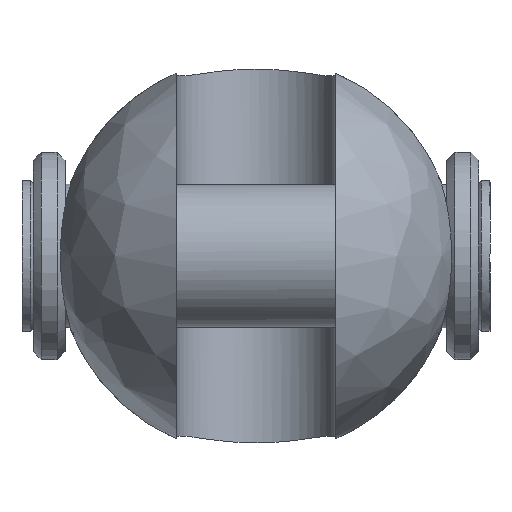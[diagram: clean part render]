
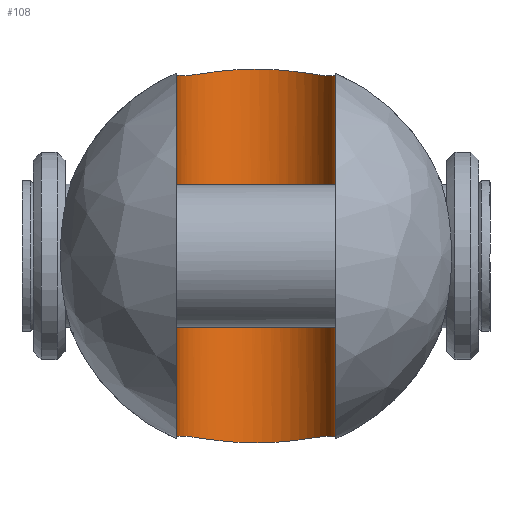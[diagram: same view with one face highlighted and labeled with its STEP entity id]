
A CAD part, left-side view. The second image highlights one B-rep face of the part: STEP entity #108.
In plain terms, the highlighted cylindrical face has radius 5 mm (diameter 10 mm), a partial arc.
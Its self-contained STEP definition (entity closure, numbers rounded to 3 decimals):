
#108=ADVANCED_FACE('',(#196),#1495,.F.);
#196=FACE_OUTER_BOUND('',#294,.T.);
#294=EDGE_LOOP('',(#691,#692,#693,#694,#695,#696,#697,#698));
#691=ORIENTED_EDGE('',*,*,#982,.F.);
#692=ORIENTED_EDGE('',*,*,#983,.F.);
#693=ORIENTED_EDGE('',*,*,#984,.F.);
#694=ORIENTED_EDGE('',*,*,#985,.F.);
#695=ORIENTED_EDGE('',*,*,#986,.F.);
#696=ORIENTED_EDGE('',*,*,#987,.F.);
#697=ORIENTED_EDGE('',*,*,#1002,.T.);
#698=ORIENTED_EDGE('',*,*,#981,.F.);
#981=EDGE_CURVE('',#1401,#1413,#1101,.T.);
#982=EDGE_CURVE('',#1400,#1401,#1102,.T.);
#983=EDGE_CURVE('',#1416,#1400,#1103,.T.);
#984=EDGE_CURVE('',#1417,#1416,#1104,.T.);
#985=EDGE_CURVE('',#1404,#1417,#1105,.T.);
#986=EDGE_CURVE('',#1403,#1404,#1106,.T.);
#987=EDGE_CURVE('',#1412,#1403,#1107,.T.);
#1002=EDGE_CURVE('',#1412,#1413,#1115,.T.);
#1101=B_SPLINE_CURVE_WITH_KNOTS('',3,(#3404,#3405,#3406,#3407),
 .UNSPECIFIED.,.F.,.F.,(4,4),(-0.987,0.),.UNSPECIFIED.);
#1102=B_SPLINE_CURVE_WITH_KNOTS('',3,(#3408,#3409,#3410,#3411,#3412,#3413,
#3414,#3415,#3416,#3417,#3418,#3419,#3420,#3421,#3422,#3423,#3424,#3425),
 .UNSPECIFIED.,.F.,.F.,(4,2,2,2,2,2,2,2,4),(-13.858,-12.651,
-10.757,-8.843,-6.929,-5.015,
-3.101,-1.206,0.),.UNSPECIFIED.);
#1103=B_SPLINE_CURVE_WITH_KNOTS('',3,(#3426,#3427,#3428,#3429),
 .UNSPECIFIED.,.F.,.F.,(4,4),(-0.987,0.),.UNSPECIFIED.);
#1104=B_SPLINE_CURVE_WITH_KNOTS('',1,(#3430,#3431),.UNSPECIFIED.,.F.,.F.,
(2,2),(-22.827,0.),.UNSPECIFIED.);
#1105=B_SPLINE_CURVE_WITH_KNOTS('',3,(#3432,#3433,#3434,#3435),
 .UNSPECIFIED.,.F.,.F.,(4,4),(-0.987,0.),.UNSPECIFIED.);
#1106=B_SPLINE_CURVE_WITH_KNOTS('',3,(#3436,#3437,#3438,#3439,#3440,#3441,
#3442,#3443,#3444,#3445,#3446,#3447,#3448,#3449,#3450,#3451,#3452,#3453),
 .UNSPECIFIED.,.F.,.F.,(4,2,2,2,2,2,2,2,4),(-13.858,-12.651,
-10.757,-8.843,-6.929,-5.015,
-3.101,-1.206,0.),.UNSPECIFIED.);
#1107=B_SPLINE_CURVE_WITH_KNOTS('',3,(#3454,#3455,#3456,#3457),
 .UNSPECIFIED.,.F.,.F.,(4,4),(-0.987,0.),.UNSPECIFIED.);
#1115=B_SPLINE_CURVE_WITH_KNOTS('',1,(#3505,#3506),.UNSPECIFIED.,.F.,.F.,
(2,2),(-22.827,0.),.UNSPECIFIED.);
#1400=VERTEX_POINT('',#3277);
#1401=VERTEX_POINT('',#3278);
#1403=VERTEX_POINT('',#3280);
#1404=VERTEX_POINT('',#3281);
#1412=VERTEX_POINT('',#3289);
#1413=VERTEX_POINT('',#3290);
#1416=VERTEX_POINT('',#3293);
#1417=VERTEX_POINT('',#3294);
#1495=CYLINDRICAL_SURFACE('',#1665,5.);
#1665=AXIS2_PLACEMENT_3D('',#3119,#1728,$);
#1728=DIRECTION('',(0.,0.,1.));
#3119=CARTESIAN_POINT('',(16.,0.,0.));
#3277=CARTESIAN_POINT('',(16.976,-4.904,-11.329));
#3278=CARTESIAN_POINT('',(16.976,4.904,-11.329));
#3280=CARTESIAN_POINT('',(16.976,4.904,11.329));
#3281=CARTESIAN_POINT('',(16.976,-4.904,11.329));
#3289=CARTESIAN_POINT('',(16.,5.,11.414));
#3290=CARTESIAN_POINT('',(16.,5.,-11.414));
#3293=CARTESIAN_POINT('',(16.,-5.,-11.414));
#3294=CARTESIAN_POINT('',(16.,-5.,11.414));
#3404=CARTESIAN_POINT('',(16.976,4.904,-11.329));
#3405=CARTESIAN_POINT('',(16.648,4.969,-11.358));
#3406=CARTESIAN_POINT('',(16.319,5.,-11.386));
#3407=CARTESIAN_POINT('',(16.,5.,-11.414));
#3408=CARTESIAN_POINT('',(16.976,-4.904,-11.329));
#3409=CARTESIAN_POINT('',(17.364,-4.827,-11.295));
#3410=CARTESIAN_POINT('',(17.753,-4.7,-11.282));
#3411=CARTESIAN_POINT('',(18.698,-4.257,-11.298));
#3412=CARTESIAN_POINT('',(19.222,-3.87,-11.354));
#3413=CARTESIAN_POINT('',(20.047,-2.997,-11.479));
#3414=CARTESIAN_POINT('',(20.406,-2.449,-11.558));
#3415=CARTESIAN_POINT('',(20.883,-1.254,-11.671));
#3416=CARTESIAN_POINT('',(21.,-0.607,-11.705));
#3417=CARTESIAN_POINT('',(21.,0.607,-11.705));
#3418=CARTESIAN_POINT('',(20.883,1.254,-11.671));
#3419=CARTESIAN_POINT('',(20.406,2.449,-11.558));
#3420=CARTESIAN_POINT('',(20.047,2.997,-11.479));
#3421=CARTESIAN_POINT('',(19.222,3.87,-11.354));
#3422=CARTESIAN_POINT('',(18.698,4.257,-11.298));
#3423=CARTESIAN_POINT('',(17.753,4.7,-11.282));
#3424=CARTESIAN_POINT('',(17.364,4.827,-11.295));
#3425=CARTESIAN_POINT('',(16.976,4.904,-11.329));
#3426=CARTESIAN_POINT('',(16.,-5.,-11.414));
#3427=CARTESIAN_POINT('',(16.319,-5.,-11.386));
#3428=CARTESIAN_POINT('',(16.648,-4.969,-11.358));
#3429=CARTESIAN_POINT('',(16.976,-4.904,-11.329));
#3430=CARTESIAN_POINT('',(16.,-5.,11.414));
#3431=CARTESIAN_POINT('',(16.,-5.,-11.414));
#3432=CARTESIAN_POINT('',(16.976,-4.904,11.329));
#3433=CARTESIAN_POINT('',(16.648,-4.969,11.358));
#3434=CARTESIAN_POINT('',(16.319,-5.,11.386));
#3435=CARTESIAN_POINT('',(16.,-5.,11.414));
#3436=CARTESIAN_POINT('',(16.976,4.904,11.329));
#3437=CARTESIAN_POINT('',(17.364,4.827,11.295));
#3438=CARTESIAN_POINT('',(17.753,4.7,11.282));
#3439=CARTESIAN_POINT('',(18.698,4.257,11.298));
#3440=CARTESIAN_POINT('',(19.222,3.87,11.354));
#3441=CARTESIAN_POINT('',(20.047,2.997,11.479));
#3442=CARTESIAN_POINT('',(20.406,2.449,11.558));
#3443=CARTESIAN_POINT('',(20.883,1.254,11.671));
#3444=CARTESIAN_POINT('',(21.,0.607,11.705));
#3445=CARTESIAN_POINT('',(21.,-0.607,11.705));
#3446=CARTESIAN_POINT('',(20.883,-1.254,11.671));
#3447=CARTESIAN_POINT('',(20.406,-2.449,11.558));
#3448=CARTESIAN_POINT('',(20.047,-2.997,11.479));
#3449=CARTESIAN_POINT('',(19.222,-3.87,11.354));
#3450=CARTESIAN_POINT('',(18.698,-4.257,11.298));
#3451=CARTESIAN_POINT('',(17.753,-4.7,11.282));
#3452=CARTESIAN_POINT('',(17.364,-4.827,11.295));
#3453=CARTESIAN_POINT('',(16.976,-4.904,11.329));
#3454=CARTESIAN_POINT('',(16.,5.,11.414));
#3455=CARTESIAN_POINT('',(16.319,5.,11.386));
#3456=CARTESIAN_POINT('',(16.648,4.969,11.358));
#3457=CARTESIAN_POINT('',(16.976,4.904,11.329));
#3505=CARTESIAN_POINT('',(16.,5.,11.414));
#3506=CARTESIAN_POINT('',(16.,5.,-11.414));
